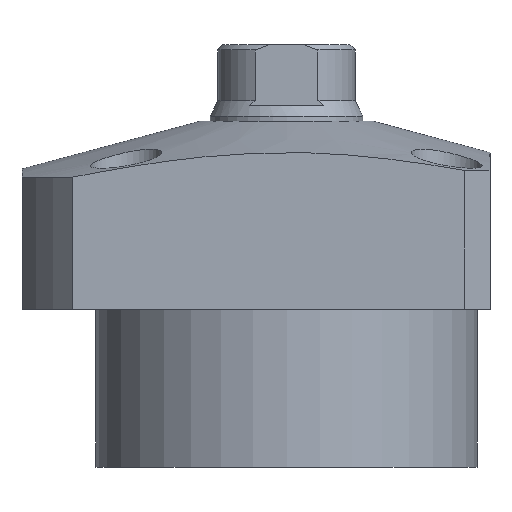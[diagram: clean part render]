
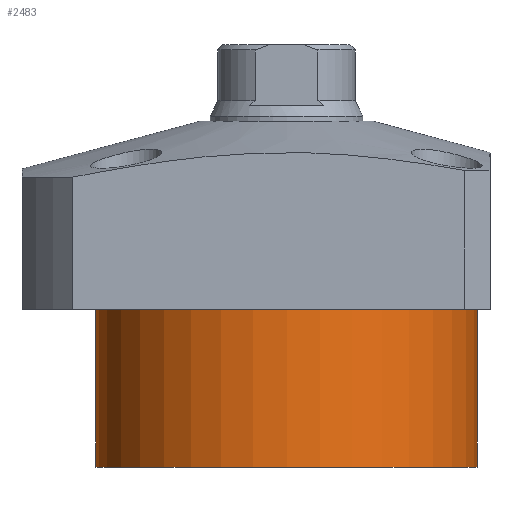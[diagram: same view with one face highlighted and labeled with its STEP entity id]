
A CAD part, front view. The second image highlights one B-rep face of the part: STEP entity #2483.
In plain terms, the highlighted cylindrical face has radius 37.5 mm (diameter 75 mm), a partial arc.
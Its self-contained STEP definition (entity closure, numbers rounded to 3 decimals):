
#45 = CARTESIAN_POINT ( 'NONE',  ( -37.5, 0., -49.5 ) ) ;
#142 = LINE ( 'NONE', #2061, #1054 ) ;
#161 = ORIENTED_EDGE ( 'NONE', *, *, #1115, .T. ) ;
#165 = VERTEX_POINT ( 'NONE', #45 ) ;
#170 = LINE ( 'NONE', #687, #1815 ) ;
#188 = CARTESIAN_POINT ( 'NONE',  ( 0., 0., -49.5 ) ) ;
#222 = EDGE_CURVE ( 'NONE', #1153, #2013, #170, .T. ) ;
#332 = ORIENTED_EDGE ( 'NONE', *, *, #786, .F. ) ;
#479 = CARTESIAN_POINT ( 'NONE',  ( -37.5, 0., -18.5 ) ) ;
#503 = DIRECTION ( 'NONE',  ( 1., 0., 0. ) ) ;
#525 = VERTEX_POINT ( 'NONE', #479 ) ;
#687 = CARTESIAN_POINT ( 'NONE',  ( 37.5, 0., -49.5 ) ) ;
#695 = ORIENTED_EDGE ( 'NONE', *, *, #1093, .F. ) ;
#785 = DIRECTION ( 'NONE',  ( 0., 0., 1. ) ) ;
#786 = EDGE_CURVE ( 'NONE', #1153, #165, #1255, .T. ) ;
#807 = AXIS2_PLACEMENT_3D ( 'NONE', #188, #1583, #1785 ) ;
#890 = ORIENTED_EDGE ( 'NONE', *, *, #222, .T. ) ;
#899 = CARTESIAN_POINT ( 'NONE',  ( 37.5, 0., -49.5 ) ) ;
#1004 = AXIS2_PLACEMENT_3D ( 'NONE', #1268, #1676, #1687 ) ;
#1054 = VECTOR ( 'NONE', #1842, 1000. ) ;
#1088 = CARTESIAN_POINT ( 'NONE',  ( 37.5, 0., -18.5 ) ) ;
#1093 = EDGE_CURVE ( 'NONE', #165, #525, #142, .T. ) ;
#1114 = CIRCLE ( 'NONE', #1808, 37.5 ) ;
#1115 = EDGE_CURVE ( 'NONE', #2013, #525, #1114, .T. ) ;
#1153 = VERTEX_POINT ( 'NONE', #899 ) ;
#1255 = CIRCLE ( 'NONE', #807, 37.5 ) ;
#1268 = CARTESIAN_POINT ( 'NONE',  ( 0., 0., -49.5 ) ) ;
#1440 = EDGE_LOOP ( 'NONE', ( #695, #332, #890, #161 ) ) ;
#1487 = DIRECTION ( 'NONE',  ( 0., 0., -1. ) ) ;
#1583 = DIRECTION ( 'NONE',  ( 0., 0., -1. ) ) ;
#1618 = FACE_OUTER_BOUND ( 'NONE', #1440, .T. ) ;
#1676 = DIRECTION ( 'NONE',  ( 0., 0., 1. ) ) ;
#1687 = DIRECTION ( 'NONE',  ( 1., 0., 0. ) ) ;
#1785 = DIRECTION ( 'NONE',  ( -1., 0., 0. ) ) ;
#1808 = AXIS2_PLACEMENT_3D ( 'NONE', #2076, #1487, #503 ) ;
#1815 = VECTOR ( 'NONE', #785, 1000. ) ;
#1842 = DIRECTION ( 'NONE',  ( 0., 0., 1. ) ) ;
#2013 = VERTEX_POINT ( 'NONE', #1088 ) ;
#2061 = CARTESIAN_POINT ( 'NONE',  ( -37.5, 0., -49.5 ) ) ;
#2076 = CARTESIAN_POINT ( 'NONE',  ( 0., 0., -18.5 ) ) ;
#2352 = CYLINDRICAL_SURFACE ( 'NONE', #1004, 37.5 ) ;
#2483 = ADVANCED_FACE ( 'NONE', ( #1618 ), #2352, .T. ) ;
